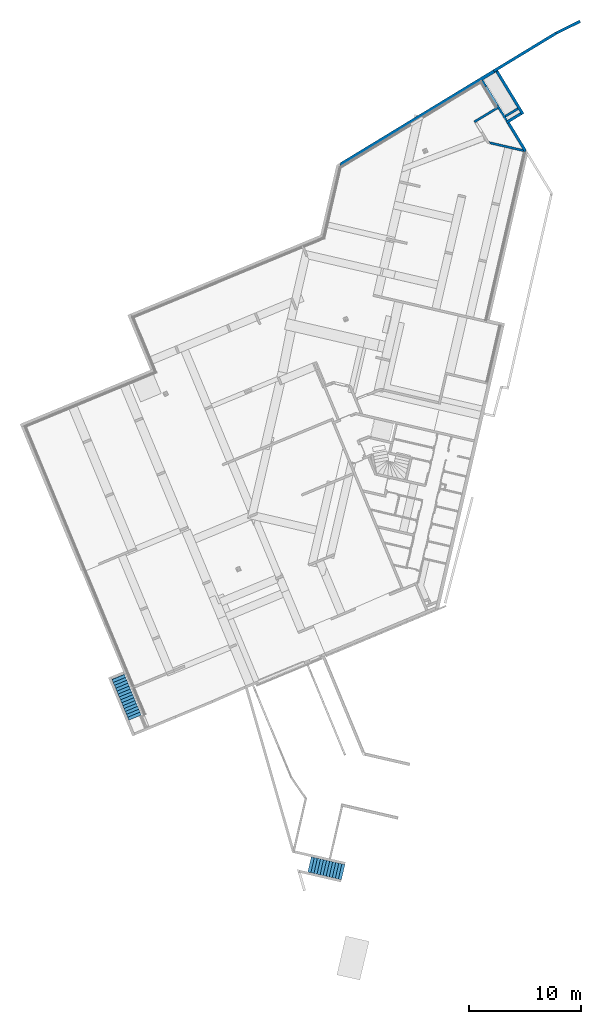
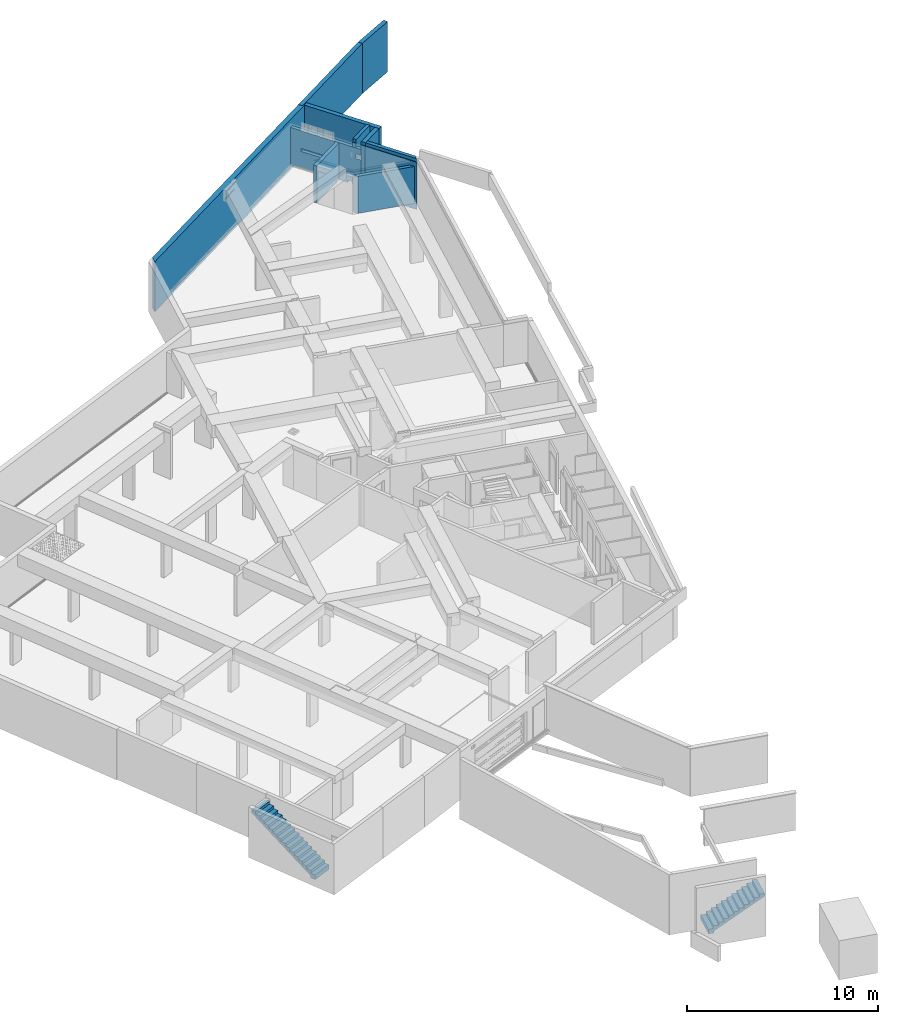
# One storey, part 12 of 20: 10 walls, 2 stairs, 3 openings.
"""IFC2X3 building model written with IfcOpenShell, lengths in metres."""

from ifc_helpers import new_model, entity, si_unit, converted_unit, derived_unit, money_unit, direction, frame, origin_with_axes, place, context, subcontext, project, spatial, faceted_brep, material, type_object, element, save


model = new_model("IFC2X3")

# Units and contexts
model_context = context("Model", 3, precision=1e-05, world=origin_with_axes(), true_north=direction((0.0, 1.0)))
body_context = subcontext(model_context, "Body", "Model", "MODEL_VIEW")
ifc_project = project(units=[si_unit("LENGTHUNIT", "METRE"), si_unit("AREAUNIT", "SQUARE_METRE"), si_unit("VOLUMEUNIT", "CUBIC_METRE"), converted_unit("PLANEANGLEUNIT", "DEGREE", entity("IfcPlaneAngleMeasure", 0.0174532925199), si_unit("PLANEANGLEUNIT", "RADIAN"), dimensions=[0, 0, 0, 0, 0, 0, 0]), si_unit("SOLIDANGLEUNIT", "STERADIAN"), money_unit("EUR"), converted_unit("TIMEUNIT", "Year", entity("IfcTimeMeasure", 31556926.0), si_unit("TIMEUNIT", "SECOND"), dimensions=[0, 0, 1, 0, 0, 0, 0]), si_unit("MASSUNIT", "GRAM", prefix="KILO"), si_unit("THERMODYNAMICTEMPERATUREUNIT", "DEGREE_CELSIUS"), si_unit("LUMINOUSINTENSITYUNIT", "LUMEN"), si_unit("ENERGYUNIT", "JOULE", prefix="MEGA"), derived_unit("THERMALCONDUCTANCEUNIT", [(si_unit("POWERUNIT", "WATT"), 1), (si_unit("LENGTHUNIT", "METRE"), -1), (si_unit("THERMODYNAMICTEMPERATUREUNIT", "KELVIN"), -1)]), derived_unit("SPECIFICHEATCAPACITYUNIT", [(si_unit("ENERGYUNIT", "JOULE"), 1), (si_unit("MASSUNIT", "GRAM", prefix="KILO"), -1), (si_unit("THERMODYNAMICTEMPERATUREUNIT", "KELVIN"), -1)]), derived_unit("MASSDENSITYUNIT", [(si_unit("MASSUNIT", "GRAM", prefix="KILO"), 1), (si_unit("VOLUMEUNIT", "CUBIC_METRE"), -1)])], contexts=[model_context])

# Site, building, storey
site_placement = place(None, origin_with_axes())
site = spatial("IfcSite", under=ifc_project, at=site_placement, Name="Site", CompositionType="ELEMENT")
building_placement = place(site_placement, origin_with_axes())
building = spatial("IfcBuilding", under=site, at=building_placement, Name="Bâtiment", CompositionType="ELEMENT")
storey_placement = place(building_placement, frame((0.0, 0.0, -2.9), z_axis=(0.0, 0.0, 1.0), x_axis=(1.0, 0.0, 0.0)))
storey = spatial("IfcBuildingStorey", under=building, at=storey_placement, Name="Sous-sol", CompositionType="ELEMENT", Elevation=-2.9)

# Wall, openings
ifc_material_1 = material(Name="Béton")
wall_type_1 = type_object("IfcWallType", Name="Béton 200", PredefinedType="USERDEFINED")
wall_1_placement = place(storey_placement, frame((0.115215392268, 26.0117903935, 0.0), z_axis=(0.0, 0.0, 1.0), x_axis=(0.519386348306, -0.854539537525, 0.0)))
wall_1 = element("IfcWall", 1, at=wall_1_placement, inside=storey, type_object=wall_type_1, material=ifc_material_1, Name="M_Ext-007", ObjectType="SOLIDWALL", context=body_context, shape_type="Brep", body=[
    faceted_brep([(4.21000000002, 0.0, 1.7), (4.51000000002, 0.0, 1.7), (4.51000000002, 0.2, 1.7), (4.21000000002, 0.2, 1.7), (4.21000000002, 0.0, 2.0), (4.51000000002, 0.0, 2.0), (4.51000000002, 0.0, 2.37), (0.3, 0.0, 2.37), (0.3, 0.0, 0.0), (3.70999995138, 0.0, 0.0), (3.70999995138, 0.0, 0.15), (4.00999995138, 0.0, 0.15), (4.00999995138, 0.0, 0.0), (4.51000000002, 0.0, 0.0), (2.91478651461, 0.0, 1.25), (2.91478651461, 0.0, 1.05), (0.91478651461, 0.0, 1.05), (0.91478651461, 0.0, 1.25), (4.51000000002, 0.2, 0.0), (0.3, 0.2, 2.37), (4.51000000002, 0.2, 2.37), (4.51000000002, 0.2, 2.0), (4.21000000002, 0.2, 2.0), (4.00999995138, 0.2, 0.0), (4.00999995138, 0.2, 0.15), (3.70999995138, 0.2, 0.15), (3.70999995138, 0.2, 0.0), (0.3, 0.2, 0.0), (2.91478651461, 0.2, 1.25), (0.91478651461, 0.2, 1.25), (0.91478651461, 0.2, 1.05), (2.91478651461, 0.2, 1.05)], [[[0, 1, 2, 3]], [[4, 5, 6, 7, 8, 9, 10, 11, 12, 13, 1, 0], [14, 15, 16, 17]], [[13, 18, 2, 1]], [[19, 20, 21, 22, 3, 2, 18, 23, 24, 25, 26, 27], [28, 29, 30, 31]], [[4, 0, 3, 22]], [[22, 21, 5, 4]], [[5, 21, 20, 6]], [[7, 6, 20, 19]], [[27, 8, 7, 19]], [[8, 27, 26, 9]], [[10, 9, 26, 25]], [[11, 10, 25, 24]], [[12, 11, 24, 23]], [[23, 18, 13, 12]], [[15, 14, 28, 31]], [[16, 15, 31, 30]], [[17, 16, 30, 29]], [[14, 17, 29, 28]]]),
])
opening_1_placement = place(wall_1_placement, frame((22.1682620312, -13.6086249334, 2.9), z_axis=(0.0, 0.0, 1.0), x_axis=(0.519386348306, 0.854539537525, 0.0)))
element("IfcOpeningElement", 2, at=opening_1_placement, cuts=wall_1, Name="PERCEMENT-002", context=body_context, shape_type="Brep", body=[
    faceted_brep([(-2.52797153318, 20.0637506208, -3.05), (-2.52797153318, 20.0637506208, -2.75), (5.40158924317, 24.88331184, -2.75), (5.40158924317, 24.88331184, -3.05), (-2.52797153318, 19.7126843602, -3.05), (-2.52797153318, 19.7126843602, -2.75), (5.40158924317, 24.5322455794, -2.75), (5.40158924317, 24.5322455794, -3.05)], [[[0, 1, 2, 3]], [[0, 4, 5, 1]], [[1, 5, 6, 2]], [[3, 2, 6, 7]], [[4, 0, 3, 7]], [[5, 4, 7, 6]]]),
])
opening_2_placement = place(wall_1_placement, frame((22.1682620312, -13.6086249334, 2.9), z_axis=(0.0, 0.0, 1.0), x_axis=(0.519386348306, 0.854539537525, 0.0)))
element("IfcOpeningElement", 3, at=opening_2_placement, cuts=wall_1, Name="PERCEMENT-002", context=body_context, shape_type="Brep", body=[
    faceted_brep([(-2.52797153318, 19.4786401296, -1.2), (-2.52797153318, 19.4786401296, -0.9), (5.40158924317, 24.2982013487, -0.9), (5.40158924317, 24.2982013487, -1.2), (-2.52797153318, 19.1275738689, -1.2), (-2.52797153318, 19.1275738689, -0.9), (5.40158924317, 23.9471350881, -0.9), (5.40158924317, 23.9471350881, -1.2)], [[[0, 1, 2, 3]], [[0, 4, 5, 1]], [[1, 5, 6, 2]], [[3, 2, 6, 7]], [[4, 0, 3, 7]], [[5, 4, 7, 6]]]),
])

# Walls
wall_2_placement = place(storey_placement, frame((1.67513766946, 23.445270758, 0.0), z_axis=(0.0, 0.0, 1.0), x_axis=(-0.854539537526, -0.519386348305, 0.0)))
element("IfcWall", 4, at=wall_2_placement, inside=storey, type_object=wall_type_1, material=ifc_material_1, Name="M_Ext-007", ObjectType="SOLIDWALL", context=body_context, shape_type="Brep", body=[
    faceted_brep([(2.42792525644, 0.2, 2.37), (2.42792525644, 0.2, 0.0), (0.0, 0.2, 0.0), (0.0, 0.2, 2.37), (2.42792525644, 0.0, 2.37), (2.42792525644, 0.0, 0.0), (0.0, 0.0, 0.0), (0.0, 0.0, 2.37)], [[[0, 1, 2, 3]], [[4, 5, 1, 0]], [[1, 5, 6, 2]], [[2, 6, 7, 3]], [[4, 0, 3, 7]], [[5, 4, 7, 6]]]),
])
wall_3_placement = place(storey_placement, frame((4.12131886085, 19.4206009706, 0.0), z_axis=(0.0, 0.0, 1.0), x_axis=(-0.974387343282, 0.224876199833, 0.0)))
element("IfcWall", 5, at=wall_3_placement, inside=storey, type_object=wall_type_1, material=ifc_material_1, Name="M_Ext-007", ObjectType="SOLIDWALL", context=body_context, shape_type="Brep", body=[
    faceted_brep([(0.0, 0.0, 2.37), (3.11225824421, 0.0, 2.37), (3.11225824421, 0.0, 0.0), (0.0, 0.0, 0.0), (0.19508118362, -0.2, 2.37), (3.30733942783, -0.2, 2.37), (3.30733942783, -0.2, 0.0), (0.19508118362, -0.2, 0.0)], [[[0, 1, 2, 3]], [[4, 5, 1, 0]], [[1, 5, 6, 2]], [[3, 2, 6, 7]], [[0, 3, 7, 4]], [[7, 6, 5, 4]]]),
])

# Wall, opening
wall_type_2 = type_object("IfcWallType", Name="Béton 250", PredefinedType="USERDEFINED")
wall_4_placement = place(storey_placement, frame((2.58749441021, 21.9441821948, -0.35), z_axis=(0.0, 0.0, 1.0), x_axis=(0.519386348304, -0.854539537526, 0.0)))
wall_4 = element("IfcWall", 6, at=wall_4_placement, inside=storey, type_object=wall_type_2, material=ifc_material_1, Name="Voile projeté béton par passes alternées", ObjectType="SOLIDWALL", context=body_context, shape_type="Brep", body=[
    faceted_brep([(0.0, 0.25, 3.22), (0.0, 0.0294922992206, 3.22), (3.04757140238, 0.0496447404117, 3.22), (2.84216434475, 0.25, 3.22), (0.0, 0.0, 3.02), (0.0, 0.0294922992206, 3.02), (0.0, 0.25, 0.0), (0.0, 0.0, 0.0), (3.04757140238, 0.0496447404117, 3.02), (3.09846789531, 0.0, 3.02), (3.09846789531, 0.0, 0.0), (2.84216434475, 0.25, 0.0)], [[[0, 1, 2, 3]], [[4, 5, 1, 0, 6, 7]], [[5, 8, 2, 1]], [[2, 8, 9, 10, 11, 3]], [[6, 0, 3, 11]], [[4, 9, 8, 5]], [[11, 10, 7, 6]], [[10, 9, 4, 7]]]),
])
opening_3_placement = place(wall_4_placement, frame((17.4082620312, -13.6086249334, 3.25), z_axis=(0.0, 0.0, 1.0), x_axis=(0.519386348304, 0.854539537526, 0.0)))
element("IfcOpeningElement", 7, at=opening_3_placement, cuts=wall_4, Name="PERCEMENT-001", context=body_context, shape_type="Brep", body=[
    faceted_brep([(-4.18000043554, 22.3306699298, -1.85), (-4.18000043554, 22.3306699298, -1.65), (8.70564704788, 30.1625245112, -1.65), (8.70564704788, 30.1625245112, -1.85), (-4.18000043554, 19.9902281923, -1.85), (-4.18000043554, 19.9902281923, -1.65), (8.70564704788, 27.8220827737, -1.65), (8.70564704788, 27.8220827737, -1.85)], [[[0, 1, 2, 3]], [[0, 4, 5, 1]], [[1, 5, 6, 2]], [[3, 2, 6, 7]], [[4, 0, 3, 7]], [[5, 4, 7, 6]]]),
])

# Walls
wall_5_placement = place(storey_placement, frame((1.62346112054, 26.9284972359, -0.35), z_axis=(0.0, 0.0, 1.0), x_axis=(0.519386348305, -0.854539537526, 0.0)))
element("IfcWall", 8, at=wall_5_placement, inside=storey, type_object=wall_type_2, material=ifc_material_1, Name="Voile projeté béton par passes alternées", ObjectType="SOLIDWALL", context=body_context, shape_type="Brep", body=[
    faceted_brep([(0.300000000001, -0.25, 3.22), (4.76000000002, -0.25, 3.22), (4.76000000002, 0.0, 3.22), (0.3, 0.0, 3.22), (0.300000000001, -0.25, 0.0), (4.76000000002, -0.25, 0.0), (4.76000000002, 0.0, 0.0), (0.3, 0.0, 0.0)], [[[0, 1, 2, 3]], [[4, 5, 1, 0]], [[6, 2, 1, 5]], [[3, 2, 6, 7]], [[7, 4, 0, 3]], [[7, 6, 5, 4]]]),
])
wall_6_placement = place(storey_placement, frame((4.09574013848, 22.8608890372, -0.35), z_axis=(0.0, 0.0, 1.0), x_axis=(-0.854539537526, -0.519386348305, 0.0)))
element("IfcWall", 9, at=wall_6_placement, inside=storey, type_object=wall_type_2, material=ifc_material_1, Name="Voile projeté béton par passes alternées", ObjectType="SOLIDWALL", context=body_context, shape_type="Brep", body=[
    faceted_brep([(0.25, -0.25, 3.22), (1.73714148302, -0.25, 3.22), (1.73548832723, 0.0, 3.22), (0.25, 0.0, 3.22), (1.76498062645, -0.25, 3.02), (1.73714148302, -0.25, 3.02), (0.25, -0.25, 0.0), (1.76498062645, -0.25, 0.0), (1.76498062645, -0.25, 0.35), (1.76498062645, -0.25, 2.72), (1.73548832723, 0.0, 3.02), (1.76498062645, 0.0, 3.02), (1.76498062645, 0.0, 2.72), (1.76498062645, 0.0, 0.35), (1.76498062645, 0.0, 0.0), (0.25, 0.0, 0.0)], [[[0, 1, 2, 3]], [[4, 5, 1, 0, 6, 7, 8, 9]], [[5, 10, 2, 1]], [[2, 10, 11, 12, 13, 14, 15, 3]], [[15, 6, 0, 3]], [[4, 11, 10, 5]], [[7, 6, 15, 14]], [[13, 8, 7, 14]], [[9, 8, 13, 12]], [[12, 11, 4, 9]]]),
])
wall_7_placement = place(storey_placement, frame((1.62346112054, 26.9284972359, -0.35), z_axis=(0.0, 0.0, 1.0), x_axis=(0.854539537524, 0.519386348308, 0.0)))
element("IfcWall", 10, at=wall_7_placement, inside=storey, type_object=wall_type_2, material=ifc_material_1, Name="Voile projeté béton par passes alternées", ObjectType="SOLIDWALL", context=body_context, shape_type="Brep", body=[
    faceted_brep([(6.16784591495, 0.0, 0.0), (-0.350000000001, 0.0, 0.0), (-0.350000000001, 0.0, 3.22), (6.16784591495, 0.0, 3.22), (6.15708456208, -0.25, 0.0), (-0.350000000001, -0.25, 0.0), (-0.350000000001, -0.25, 3.22), (6.15708456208, -0.25, 3.22)], [[[0, 1, 2, 3]], [[1, 0, 4, 5]], [[2, 1, 5, 6]], [[2, 6, 7, 3]], [[4, 0, 3, 7]], [[6, 5, 4, 7]]]),
])
wall_8_placement = place(storey_placement, frame((6.89412931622, 30.1319922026, -0.35), z_axis=(0.0, 0.0, 1.0), x_axis=(0.89601032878, 0.444033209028, 0.0)))
element("IfcWall", 11, at=wall_8_placement, inside=storey, type_object=wall_type_2, material=ifc_material_1, Name="Voile projeté béton par passes alternées", ObjectType="SOLIDWALL", context=body_context, shape_type="Brep", body=[
    faceted_brep([(0.0, 0.0, 3.22), (0.0107613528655, -0.25, 3.22), (2.40578651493, -0.25, 3.22), (2.40578651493, 0.0, 3.22), (0.0, 0.0, 0.0), (0.0107613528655, -0.25, 0.0), (2.40578651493, -0.25, 0.0), (2.40578651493, 0.0, 0.0)], [[[0, 1, 2, 3]], [[4, 5, 1, 0]], [[2, 1, 5, 6]], [[7, 3, 2, 6]], [[4, 0, 3, 7]], [[6, 5, 4, 7]]]),
])
wall_type_3 = type_object("IfcWallType", Name="Béton 300", PredefinedType="USERDEFINED")
wall_9_placement = place(storey_placement, frame((1.62346112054, 26.9284972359, -0.35), z_axis=(0.0, 0.0, 1.0), x_axis=(-0.854539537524, -0.519386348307, 0.0)))
element("IfcWall", 12, at=wall_9_placement, inside=storey, type_object=wall_type_3, material=ifc_material_1, Name="Voile projeté béton par passes alternées", ObjectType="SOLIDWALL", context=body_context, shape_type="Brep", body=[
    faceted_brep([(0.350000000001, 0.0, 0.0), (16.2791196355, 0.0, 0.0), (16.2791196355, 0.0, 3.22), (0.350000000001, 0.0, 3.22), (8.61083298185, 0.0, 2.55), (8.61083298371, 0.0, 2.49), (8.16401220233, 0.0, 2.49), (8.16401220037, 0.0, 2.55), (16.571741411, 0.3, 0.0), (0.350000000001, 0.25, 0.0), (0.0, 0.25, 0.0), (0.0, 0.3, 0.0), (16.571741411, 0.3, 3.22), (0.0, 0.3, 3.22), (0.0, 0.25, 3.22), (0.350000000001, 0.25, 3.22), (0.350000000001, 0.25, 0.35), (0.350000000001, 0.25, 0.22), (8.90307001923, 0.3, 2.49), (8.90307001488, 0.3, 2.55), (7.856043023, 0.3, 2.49), (7.856043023, 0.29999999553, 2.55), (7.94196209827, 0.3, 2.55), (0.250000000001, 0.25, 0.22), (0.250000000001, 0.25, 0.35), (0.250000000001, 0.3, 0.35), (0.250000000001, 0.3, 0.22), (1.51497396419, 0.3, 0.22), (1.51497396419, 0.3, 0.35), (1.51498062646, 0.25, 0.35), (1.51498062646, 0.25, 0.22)], [[[0, 1, 2, 3], [4, 5, 6, 7]], [[8, 1, 0, 9, 10, 11]], [[8, 12, 2, 1]], [[12, 13, 14, 15, 3, 2]], [[3, 15, 16, 17, 9, 0]], [[18, 5, 4, 19]], [[5, 18, 20, 6]], [[21, 7, 6, 20]], [[7, 21, 22, 19, 4]], [[10, 9, 17, 23, 24, 16, 15, 14]], [[14, 13, 11, 10]], [[8, 11, 13, 12], [25, 26, 27, 28], [18, 19, 22, 21, 20]], [[29, 30, 17, 16]], [[17, 30, 27, 26, 23]], [[24, 23, 26, 25]], [[16, 24, 25, 28, 29]], [[30, 29, 28, 27]]]),
])
ifc_material_2 = material(Name="Parpaing 20cm")
wall_type_4 = type_object("IfcWallType", Name="Parpaing 20cm 200", PredefinedType="STANDARD")
wall_10_placement = place(storey_placement, frame((3.59644276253, 23.2010391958, 0.0), z_axis=(0.0, 0.0, 1.0), x_axis=(-0.854539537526, -0.519386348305, 0.0)))
element("IfcWall", 13, at=wall_10_placement, inside=storey, type_object=wall_type_4, material=ifc_material_2, Name="M_Ext-007", ObjectType="STANDARD", context=body_context, shape_type="Brep", body=[
    faceted_brep([(0.0, -0.2, 2.9), (1.49044779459, -0.2, 2.9), (1.48912526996, 0.0, 2.9), (0.0, 0.0, 2.9), (1.51498062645, -0.2, 2.67), (1.49044779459, -0.2, 2.67), (0.0, -0.2, 0.0), (1.31498062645, -0.200000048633, 0.0), (1.31498062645, -0.2, 2.37), (1.51498062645, -0.2, 2.37), (1.48912526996, 0.0, 2.67), (1.51498062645, 0.0, 2.67), (1.51498062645, 0.0, 2.37), (1.31498062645, 0.0, 2.37), (1.31498062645, 0.0, 0.0), (0.0, 0.0, 0.0)], [[[0, 1, 2, 3]], [[4, 5, 1, 0, 6, 7, 8, 9]], [[5, 10, 2, 1]], [[2, 10, 11, 12, 13, 14, 15, 3]], [[0, 3, 15, 6]], [[4, 11, 10, 5]], [[6, 15, 14, 7]], [[7, 14, 13, 8]], [[9, 8, 13, 12]], [[12, 11, 4, 9]]]),
])

# Stairs
ifc_material_3 = material(Name="Béton escalier")
stair_1_placement = place(storey_placement, frame((-30.0821670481, -30.8530308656, 0.0), z_axis=(0.0, 0.0, 1.0), x_axis=(1.0, 0.0, 0.0)))
element("IfcStair", 14, at=stair_1_placement, inside=storey, material=ifc_material_3, Name="EScalier béton droit 120 extérieur", ShapeType="NOTDEFINED", context=body_context, shape_type="Brep", body=[
    faceted_brep([(0.0, 0.0, -0.13), (-0.114933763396, 0.277110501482, -0.13), (-0.114933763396, 0.277110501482, 0.00666064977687), (-0.143028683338, 0.344848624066, 0.0511844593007), (-0.178785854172, 0.431060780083, 0.107851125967), (-0.214543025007, 0.517272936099, 0.164517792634), (-0.250300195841, 0.603485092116, 0.221184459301), (-0.286057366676, 0.689697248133, 0.277851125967), (-0.32181453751, 0.775909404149, 0.334517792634), (-0.357571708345, 0.862121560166, 0.391184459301), (-0.393328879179, 0.948333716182, 0.447851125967), (-0.429086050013, 1.0345458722, 0.504517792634), (-0.464843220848, 1.12075802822, 0.561184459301), (-0.500600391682, 1.20697018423, 0.617851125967), (-0.536357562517, 1.29318234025, 0.674517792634), (-0.572114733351, 1.37939449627, 0.731184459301), (-0.607871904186, 1.46560665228, 0.787851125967), (-0.64362907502, 1.5518188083, 0.844517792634), (-0.679386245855, 1.63803096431, 0.901184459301), (-0.715143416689, 1.72424312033, 0.957851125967), (-0.750900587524, 1.81045527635, 1.01451779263), (-0.786657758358, 1.89666743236, 1.0711844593), (-0.822414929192, 1.98287958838, 1.12785112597), (-0.858172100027, 2.0690917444, 1.18451779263), (-0.893929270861, 2.15530390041, 1.2411844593), (-0.929686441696, 2.24151605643, 1.29785112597), (-0.96544361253, 2.32772821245, 1.35451779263), (-1.00120078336, 2.41394036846, 1.4111844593), (-1.0369579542, 2.50015252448, 1.46785112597), (-1.07271512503, 2.5863646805, 1.52451779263), (-1.10847229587, 2.67257683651, 1.5811844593), (-1.1442294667, 2.75878899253, 1.63785112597), (-1.17998663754, 2.84500114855, 1.69451779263), (-1.21574380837, 2.93121330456, 1.7511844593), (-1.25150097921, 3.01742546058, 1.80785112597), (-1.28725815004, 3.1036376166, 1.86451779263), (-1.32301532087, 3.18984977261, 1.9211844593), (-1.35877249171, 3.27606192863, 1.97785112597), (-1.39452966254, 3.36227408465, 2.03451779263), (-1.43028683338, 3.44848624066, 2.0911844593), (-1.46604400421, 3.53469839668, 2.14785112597), (-1.50180117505, 3.6209105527, 2.20451779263), (-1.53755834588, 3.70712270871, 2.2611844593), (-1.57331551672, 3.79333486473, 2.31785112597), (-1.60907268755, 3.87954702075, 2.37451779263), (-1.60907268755, 3.87954702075, 2.55), (-1.50180117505, 3.6209105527, 2.55), (-1.50180117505, 3.6209105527, 2.38), (-1.39452966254, 3.36227408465, 2.38), (-1.39452966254, 3.36227408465, 2.21), (-1.28725815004, 3.1036376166, 2.21), (-1.28725815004, 3.1036376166, 2.04), (-1.17998663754, 2.84500114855, 2.04), (-1.17998663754, 2.84500114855, 1.87), (-1.07271512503, 2.5863646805, 1.87), (-1.07271512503, 2.5863646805, 1.7), (-0.96544361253, 2.32772821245, 1.7), (-0.96544361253, 2.32772821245, 1.53), (-0.858172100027, 2.0690917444, 1.53), (-0.858172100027, 2.0690917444, 1.36), (-0.750900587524, 1.81045527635, 1.36), (-0.750900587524, 1.81045527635, 1.19), (-0.64362907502, 1.5518188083, 1.19), (-0.64362907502, 1.5518188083, 1.02), (-0.536357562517, 1.29318234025, 1.02), (-0.536357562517, 1.29318234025, 0.85), (-0.429086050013, 1.0345458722, 0.85), (-0.429086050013, 1.0345458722, 0.68), (-0.32181453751, 0.775909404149, 0.68), (-0.32181453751, 0.775909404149, 0.51), (-0.214543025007, 0.517272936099, 0.51), (-0.214543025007, 0.517272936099, 0.34), (-0.107271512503, 0.25863646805, 0.34), (-0.107271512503, 0.25863646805, 0.17), (0.0, 0.0, 0.17), (-1.22337576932, -0.182624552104, -0.13), (-1.10844200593, -0.459735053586, -0.13), (-1.22337576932, -0.182624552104, 0.00666064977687), (-1.25147068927, -0.11488642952, 0.0511844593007), (-1.2872278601, -0.028674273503, 0.107851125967), (-1.32298503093, 0.0575378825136, 0.164517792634), (-1.35874220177, 0.14375003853, 0.221184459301), (-1.3944993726, 0.229962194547, 0.277851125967), (-1.43025654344, 0.316174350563, 0.334517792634), (-1.46601371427, 0.40238650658, 0.391184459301), (-1.50177088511, 0.488598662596, 0.447851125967), (-1.53752805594, 0.574810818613, 0.504517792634), (-1.57328522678, 0.66102297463, 0.561184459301), (-1.60904239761, 0.747235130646, 0.617851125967), (-1.64479956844, 0.833447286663, 0.674517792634), (-1.68055673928, 0.919659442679, 0.731184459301), (-1.71631391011, 1.0058715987, 0.787851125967), (-1.75207108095, 1.09208375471, 0.844517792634), (-1.78782825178, 1.17829591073, 0.901184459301), (-1.82358542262, 1.26450806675, 0.957851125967), (-1.85934259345, 1.35072022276, 1.01451779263), (-1.89509976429, 1.43693237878, 1.0711844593), (-1.93085693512, 1.5231445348, 1.12785112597), (-1.96661410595, 1.60935669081, 1.18451779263), (-2.00237127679, 1.69556884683, 1.2411844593), (-2.03812844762, 1.78178100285, 1.29785112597), (-2.07388561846, 1.86799315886, 1.35451779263), (-2.10964278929, 1.95420531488, 1.4111844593), (-2.14539996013, 2.04041747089, 1.46785112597), (-2.18115713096, 2.12662962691, 1.52451779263), (-2.2169143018, 2.21284178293, 1.5811844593), (-2.25267147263, 2.29905393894, 1.63785112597), (-2.28842864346, 2.38526609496, 1.69451779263), (-2.3241858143, 2.47147825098, 1.7511844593), (-2.35994298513, 2.55769040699, 1.80785112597), (-2.39570015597, 2.64390256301, 1.86451779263), (-2.4314573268, 2.73011471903, 1.9211844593), (-2.46721449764, 2.81632687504, 1.97785112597), (-2.50297166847, 2.90253903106, 2.03451779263), (-2.53872883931, 2.98875118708, 2.0911844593), (-2.57448601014, 3.07496334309, 2.14785112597), (-2.61024318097, 3.16117549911, 2.20451779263), (-2.64600035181, 3.24738765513, 2.2611844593), (-2.68175752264, 3.33359981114, 2.31785112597), (-2.71751469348, 3.41981196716, 2.37451779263), (-2.71751469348, 3.41981196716, 2.55), (-2.61024318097, 3.16117549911, 2.55), (-2.61024318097, 3.16117549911, 2.38), (-2.50297166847, 2.90253903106, 2.38), (-2.50297166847, 2.90253903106, 2.21), (-2.39570015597, 2.64390256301, 2.21), (-2.39570015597, 2.64390256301, 2.04), (-2.28842864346, 2.38526609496, 2.04), (-2.28842864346, 2.38526609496, 1.87), (-2.18115713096, 2.12662962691, 1.87), (-2.18115713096, 2.12662962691, 1.7), (-2.07388561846, 1.86799315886, 1.7), (-2.07388561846, 1.86799315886, 1.53), (-1.96661410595, 1.60935669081, 1.53), (-1.96661410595, 1.60935669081, 1.36), (-1.85934259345, 1.35072022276, 1.36), (-1.85934259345, 1.35072022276, 1.19), (-1.75207108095, 1.09208375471, 1.19), (-1.75207108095, 1.09208375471, 1.02), (-1.64479956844, 0.833447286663, 1.02), (-1.64479956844, 0.833447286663, 0.85), (-1.53752805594, 0.574810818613, 0.85), (-1.53752805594, 0.574810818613, 0.68), (-1.43025654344, 0.316174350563, 0.68), (-1.43025654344, 0.316174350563, 0.51), (-1.32298503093, 0.0575378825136, 0.51), (-1.32298503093, 0.0575378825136, 0.34), (-1.21571351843, -0.201098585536, 0.34), (-1.21571351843, -0.201098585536, 0.17), (-1.10844200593, -0.459735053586, 0.17)], [[[0, 1, 2, 3, 4, 5, 6, 7, 8, 9, 10, 11, 12, 13, 14, 15, 16, 17, 18, 19, 20, 21, 22, 23, 24, 25, 26, 27, 28, 29, 30, 31, 32, 33, 34, 35, 36, 37, 38, 39, 40, 41, 42, 43, 44, 45, 46, 47, 48, 49, 50, 51, 52, 53, 54, 55, 56, 57, 58, 59, 60, 61, 62, 63, 64, 65, 66, 67, 68, 69, 70, 71, 72, 73, 74]], [[75, 1, 0, 76]], [[75, 77, 2, 1]], [[3, 2, 77, 78]], [[78, 79, 4, 3]], [[79, 80, 5, 4]], [[80, 81, 6, 5]], [[81, 82, 7, 6]], [[82, 83, 8, 7]], [[83, 84, 9, 8]], [[84, 85, 10, 9]], [[85, 86, 11, 10]], [[86, 87, 12, 11]], [[87, 88, 13, 12]], [[88, 89, 14, 13]], [[89, 90, 15, 14]], [[90, 91, 16, 15]], [[91, 92, 17, 16]], [[92, 93, 18, 17]], [[93, 94, 19, 18]], [[94, 95, 20, 19]], [[95, 96, 21, 20]], [[96, 97, 22, 21]], [[97, 98, 23, 22]], [[98, 99, 24, 23]], [[99, 100, 25, 24]], [[100, 101, 26, 25]], [[101, 102, 27, 26]], [[102, 103, 28, 27]], [[103, 104, 29, 28]], [[104, 105, 30, 29]], [[105, 106, 31, 30]], [[106, 107, 32, 31]], [[107, 108, 33, 32]], [[108, 109, 34, 33]], [[109, 110, 35, 34]], [[110, 111, 36, 35]], [[111, 112, 37, 36]], [[112, 113, 38, 37]], [[113, 114, 39, 38]], [[114, 115, 40, 39]], [[115, 116, 41, 40]], [[116, 117, 42, 41]], [[117, 118, 43, 42]], [[118, 119, 44, 43]], [[120, 45, 44, 119]], [[121, 46, 45, 120]], [[47, 46, 121, 122]], [[122, 123, 48, 47]], [[49, 48, 123, 124]], [[124, 125, 50, 49]], [[51, 50, 125, 126]], [[126, 127, 52, 51]], [[53, 52, 127, 128]], [[128, 129, 54, 53]], [[55, 54, 129, 130]], [[130, 131, 56, 55]], [[57, 56, 131, 132]], [[132, 133, 58, 57]], [[59, 58, 133, 134]], [[134, 135, 60, 59]], [[61, 60, 135, 136]], [[136, 137, 62, 61]], [[63, 62, 137, 138]], [[138, 139, 64, 63]], [[65, 64, 139, 140]], [[140, 141, 66, 65]], [[67, 66, 141, 142]], [[142, 143, 68, 67]], [[69, 68, 143, 144]], [[144, 145, 70, 69]], [[71, 70, 145, 146]], [[146, 147, 72, 71]], [[73, 72, 147, 148]], [[148, 149, 74, 73]], [[74, 149, 76, 0]], [[75, 76, 149, 148, 147, 146, 145, 144, 143, 142, 141, 140, 139, 138, 137, 136, 135, 134, 133, 132, 131, 130, 129, 128, 127, 126, 125, 124, 123, 122, 121, 120, 119, 118, 117, 116, 115, 114, 113, 112, 111, 110, 109, 108, 107, 106, 105, 104, 103, 102, 101, 100, 99, 98, 97, 96, 95, 94, 93, 92, 91, 90, 89, 88, 87, 86, 85, 84, 83, 82, 81, 80, 79, 78, 77]]]),
])
stair_2_placement = place(storey_placement, frame((-15.213493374, -44.8773242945, -0.83843884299), z_axis=(0.0, 0.0, 1.0), x_axis=(1.0, 0.0, 0.0)))
element("IfcStair", 15, at=stair_2_placement, inside=storey, material=ifc_material_3, Name="EScalier béton droit 140 extérieur", ShapeType="NOTDEFINED", context=body_context, shape_type="Brep", body=[
    faceted_brep([(0.363859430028, -0.0835708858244, 0.0476600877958), (0.292387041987, -0.0671551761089, 0.004009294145), (0.605777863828, 1.2973176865, 0.004009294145), (0.677250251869, 1.28090197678, 0.0476600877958), (0.292387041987, -0.0671551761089, -0.13), (0.454824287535, -0.10446360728, 0.103215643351), (0.545789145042, -0.125356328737, 0.158771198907), (0.636754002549, -0.146249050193, 0.214326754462), (0.727718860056, -0.167141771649, 0.269882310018), (0.818683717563, -0.188034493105, 0.325437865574), (0.90964857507, -0.208927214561, 0.380993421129), (1.00061343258, -0.229819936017, 0.436548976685), (1.09157829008, -0.250712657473, 0.49210453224), (1.18254314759, -0.271605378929, 0.547660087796), (1.2735080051, -0.292498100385, 0.603215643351), (1.36447286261, -0.313390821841, 0.658771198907), (1.45543772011, -0.334283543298, 0.714326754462), (1.54640257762, -0.355176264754, 0.769882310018), (1.63736743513, -0.37606898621, 0.825437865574), (1.72833229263, -0.396961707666, 0.880993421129), (1.81929715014, -0.417854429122, 0.936548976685), (1.91026200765, -0.438747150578, 0.99210453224), (2.00122686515, -0.459639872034, 1.0476600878), (2.09219172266, -0.48053259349, 1.10321564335), (2.18315658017, -0.501425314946, 1.15877119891), (2.27412143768, -0.522318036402, 1.21432675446), (2.36508629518, -0.543210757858, 1.26988231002), (2.45605115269, -0.564103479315, 1.32543786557), (2.5470160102, -0.584996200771, 1.38099342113), (2.6379808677, -0.605888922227, 1.43654897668), (2.72894572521, -0.626781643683, 1.49210453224), (2.81991058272, -0.647674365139, 1.5476600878), (2.91087544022, -0.668567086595, 1.60321564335), (3.00184029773, -0.689459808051, 1.65877119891), (3.00184029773, -0.689459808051, 1.83333333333), (2.72894572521, -0.626781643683, 1.83333333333), (2.72894572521, -0.626781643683, 1.66666666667), (2.45605115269, -0.564103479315, 1.66666666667), (2.45605115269, -0.564103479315, 1.5), (2.18315658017, -0.501425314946, 1.5), (2.18315658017, -0.501425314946, 1.33333333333), (1.91026200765, -0.438747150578, 1.33333333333), (1.91026200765, -0.438747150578, 1.16666666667), (1.63736743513, -0.37606898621, 1.16666666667), (1.63736743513, -0.37606898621, 1.0), (1.36447286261, -0.313390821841, 1.0), (1.36447286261, -0.313390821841, 0.833333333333), (1.09157829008, -0.250712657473, 0.833333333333), (1.09157829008, -0.250712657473, 0.666666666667), (0.818683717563, -0.188034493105, 0.666666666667), (0.818683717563, -0.188034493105, 0.5), (0.545789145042, -0.125356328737, 0.5), (0.545789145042, -0.125356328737, 0.333333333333), (0.272894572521, -0.0626781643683, 0.333333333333), (0.272894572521, -0.0626781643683, 0.166666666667), (0.0, 0.0, 0.166666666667), (0.0, 0.0, -0.13), (0.605777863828, 1.2973176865, -0.13), (0.313390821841, 1.36447286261, -0.13), (0.313390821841, 1.36447286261, 0.166666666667), (0.586285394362, 1.30179469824, 0.166666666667), (0.586285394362, 1.30179469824, 0.333333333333), (0.859179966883, 1.23911653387, 0.333333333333), (0.859179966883, 1.23911653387, 0.5), (1.1320745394, 1.1764383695, 0.5), (1.1320745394, 1.1764383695, 0.666666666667), (1.40496911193, 1.11376020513, 0.666666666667), (1.40496911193, 1.11376020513, 0.833333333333), (1.67786368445, 1.05108204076, 0.833333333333), (1.67786368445, 1.05108204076, 1.0), (1.95075825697, 0.988403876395, 1.0), (1.95075825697, 0.988403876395, 1.16666666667), (2.22365282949, 0.925725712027, 1.16666666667), (2.22365282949, 0.925725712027, 1.33333333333), (2.49654740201, 0.863047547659, 1.33333333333), (2.49654740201, 0.863047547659, 1.5), (2.76944197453, 0.80036938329, 1.5), (2.76944197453, 0.80036938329, 1.66666666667), (3.04233654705, 0.737691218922, 1.66666666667), (3.04233654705, 0.737691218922, 1.83333333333), (3.31523111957, 0.675013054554, 1.83333333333), (3.31523111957, 0.675013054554, 1.65877119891), (3.22426626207, 0.69590577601, 1.60321564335), (3.13330140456, 0.716798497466, 1.5476600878), (3.04233654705, 0.737691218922, 1.49210453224), (2.95137168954, 0.758583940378, 1.43654897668), (2.86040683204, 0.779476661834, 1.38099342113), (2.76944197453, 0.80036938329, 1.32543786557), (2.67847711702, 0.821262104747, 1.26988231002), (2.58751225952, 0.842154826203, 1.21432675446), (2.49654740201, 0.863047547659, 1.15877119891), (2.4055825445, 0.883940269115, 1.10321564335), (2.314617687, 0.904832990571, 1.0476600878), (2.22365282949, 0.925725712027, 0.99210453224), (2.13268797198, 0.946618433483, 0.936548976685), (2.04172311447, 0.967511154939, 0.880993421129), (1.95075825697, 0.988403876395, 0.825437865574), (1.85979339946, 1.00929659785, 0.769882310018), (1.76882854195, 1.03018931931, 0.714326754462), (1.67786368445, 1.05108204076, 0.658771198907), (1.58689882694, 1.07197476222, 0.603215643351), (1.49593396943, 1.09286748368, 0.547660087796), (1.40496911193, 1.11376020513, 0.49210453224), (1.31400425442, 1.13465292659, 0.436548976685), (1.22303939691, 1.15554564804, 0.380993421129), (1.1320745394, 1.1764383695, 0.325437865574), (1.0411096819, 1.19733109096, 0.269882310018), (0.95014482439, 1.21822381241, 0.214326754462), (0.859179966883, 1.23911653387, 0.158771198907), (0.768215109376, 1.26000925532, 0.103215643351)], [[[0, 1, 2, 3]], [[4, 1, 0, 5, 6, 7, 8, 9, 10, 11, 12, 13, 14, 15, 16, 17, 18, 19, 20, 21, 22, 23, 24, 25, 26, 27, 28, 29, 30, 31, 32, 33, 34, 35, 36, 37, 38, 39, 40, 41, 42, 43, 44, 45, 46, 47, 48, 49, 50, 51, 52, 53, 54, 55, 56]], [[57, 2, 1, 4]], [[3, 2, 57, 58, 59, 60, 61, 62, 63, 64, 65, 66, 67, 68, 69, 70, 71, 72, 73, 74, 75, 76, 77, 78, 79, 80, 81, 82, 83, 84, 85, 86, 87, 88, 89, 90, 91, 92, 93, 94, 95, 96, 97, 98, 99, 100, 101, 102, 103, 104, 105, 106, 107, 108, 109]], [[5, 0, 3, 109]], [[6, 5, 109, 108]], [[7, 6, 108, 107]], [[8, 7, 107, 106]], [[9, 8, 106, 105]], [[10, 9, 105, 104]], [[11, 10, 104, 103]], [[12, 11, 103, 102]], [[13, 12, 102, 101]], [[14, 13, 101, 100]], [[15, 14, 100, 99]], [[16, 15, 99, 98]], [[17, 16, 98, 97]], [[18, 17, 97, 96]], [[19, 18, 96, 95]], [[20, 19, 95, 94]], [[21, 20, 94, 93]], [[22, 21, 93, 92]], [[23, 22, 92, 91]], [[24, 23, 91, 90]], [[25, 24, 90, 89]], [[26, 25, 89, 88]], [[27, 26, 88, 87]], [[28, 27, 87, 86]], [[29, 28, 86, 85]], [[30, 29, 85, 84]], [[31, 30, 84, 83]], [[32, 31, 83, 82]], [[32, 82, 81, 33]], [[80, 34, 33, 81]], [[79, 35, 34, 80]], [[36, 35, 79, 78]], [[78, 77, 37, 36]], [[38, 37, 77, 76]], [[76, 75, 39, 38]], [[40, 39, 75, 74]], [[74, 73, 41, 40]], [[42, 41, 73, 72]], [[72, 71, 43, 42]], [[44, 43, 71, 70]], [[70, 69, 45, 44]], [[46, 45, 69, 68]], [[68, 67, 47, 46]], [[48, 47, 67, 66]], [[66, 65, 49, 48]], [[50, 49, 65, 64]], [[64, 63, 51, 50]], [[52, 51, 63, 62]], [[62, 61, 53, 52]], [[54, 53, 61, 60]], [[60, 59, 55, 54]], [[55, 59, 58, 56]], [[57, 4, 56, 58]]]),
])

save(model, "model.ifc")
